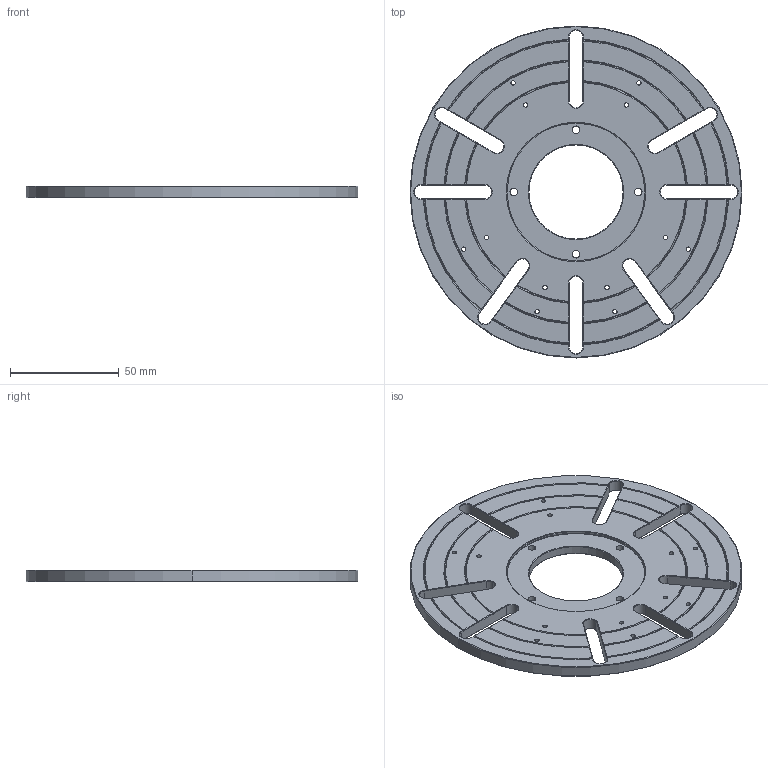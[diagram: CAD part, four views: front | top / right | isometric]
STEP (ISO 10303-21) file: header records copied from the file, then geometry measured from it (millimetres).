
FILE_DESCRIPTION (( 'STEP AP203' ), '1' );
FILE_NAME ('1014970.STEP', '2020-01-31T16:38:33', ( '' ), ( '' ), 'SwSTEP 2.0', 'SolidWorks 2019', '' );
FILE_SCHEMA (( 'CONFIG_CONTROL_DESIGN' ));
Length unit declared in the file: inch
Products named in the file (1): 1014970
Bounding box: 152.4 x 152.4 x 5.49 mm (x, y, z)
Volume: 79641.9 mm3; surface area: 37527 mm2
Topology: 1 solids, 1 shells, 304 faces, 842 edges, 534 vertices
Faces by surface type: plane 116, cone 102, cylinder 60, torus 26
Entity records: 10089 total; most frequent: CARTESIAN_POINT 2497, ORIENTED_EDGE 1684, DIRECTION 1492, EDGE_CURVE 842, AXIS2_PLACEMENT_3D 585, VERTEX_POINT 534, EDGE_LOOP 348, LINE 322
